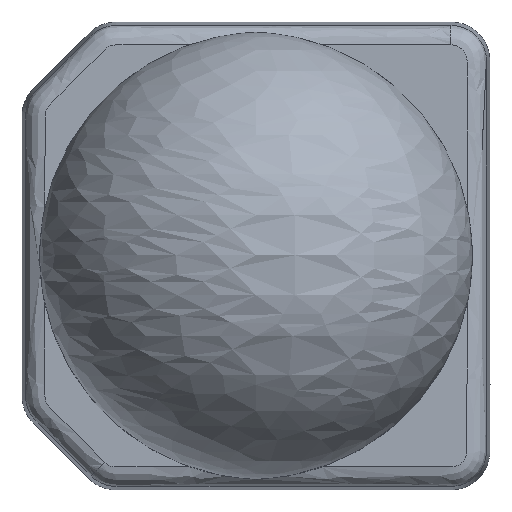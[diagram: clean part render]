
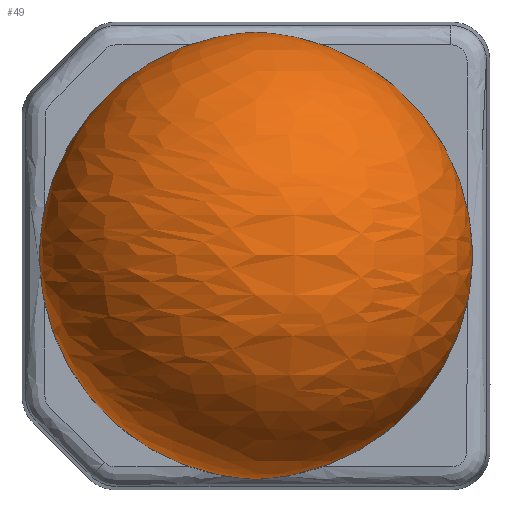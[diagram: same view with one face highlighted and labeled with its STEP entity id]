
A CAD part, top view. The second image highlights one B-rep face of the part: STEP entity #49.
In plain terms, the highlighted free-form (B-spline) face has degree [2, 2] with [5, 5] control points.
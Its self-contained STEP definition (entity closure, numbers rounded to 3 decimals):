
#49=ADVANCED_FACE('',(#86),#518,.T.);
#86=FACE_OUTER_BOUND('',#123,.T.);
#123=EDGE_LOOP('',(#244,#245));
#244=ORIENTED_EDGE('',*,*,#347,.F.);
#245=ORIENTED_EDGE('',*,*,#346,.F.);
#346=EDGE_CURVE('',#492,#493,#369,.T.);
#347=EDGE_CURVE('',#493,#492,#370,.T.);
#369=TRIMMED_CURVE($,#378,(#1464),(#1465),.T.,.CARTESIAN.);
#370=TRIMMED_CURVE($,#379,(#1467),(#1468),.T.,.CARTESIAN.);
#378=CIRCLE('',#587,5.727);
#379=CIRCLE('',#588,5.727);
#492=VERTEX_POINT('',#1149);
#493=VERTEX_POINT('',#1150);
#518=(
BOUNDED_SURFACE()
B_SPLINE_SURFACE(2,2,((#943,#944,#945,#946,#947),(#948,#949,#950,#951,#952),
(#953,#954,#955,#956,#957),(#958,#959,#960,#961,#962),(#963,#964,#965,#966,
#967)),.UNSPECIFIED.,.F.,.F.,.F.)
B_SPLINE_SURFACE_WITH_KNOTS((3,2,3),(3,2,3),(0.,8.817,17.634),
(0.,8.715,17.431),.UNSPECIFIED.)
GEOMETRIC_REPRESENTATION_ITEM()
RATIONAL_B_SPLINE_SURFACE(((1.,0.707,1.,0.707,1.),
(0.718,0.508,0.718,0.508,
0.718),(1.,0.707,1.,0.707,1.),(0.718,
0.508,0.718,0.508,0.718),
(1.,0.707,1.,0.707,1.)))
REPRESENTATION_ITEM('')
SURFACE()
);
#587=AXIS2_PLACEMENT_3D($,#1463,#624,#625);
#588=AXIS2_PLACEMENT_3D($,#1466,#626,#627);
#624=DIRECTION('',(0.,0.,-1.));
#625=DIRECTION('',(-0.031,-1.,0.));
#626=DIRECTION('',(0.,0.,-1.));
#627=DIRECTION('',(0.031,1.,0.));
#943=CARTESIAN_POINT('',(0.,-5.724,6.552));
#944=CARTESIAN_POINT('',(0.,-5.724,6.552));
#945=CARTESIAN_POINT('',(0.,-5.724,6.552));
#946=CARTESIAN_POINT('',(0.,-5.724,6.552));
#947=CARTESIAN_POINT('',(0.,-5.724,6.552));
#948=CARTESIAN_POINT('',(5.548,-5.551,6.552));
#949=CARTESIAN_POINT('',(5.548,-5.551,12.1));
#950=CARTESIAN_POINT('',(0.,-5.551,12.1));
#951=CARTESIAN_POINT('',(-5.548,-5.551,12.1));
#952=CARTESIAN_POINT('',(-5.548,-5.551,6.552));
#953=CARTESIAN_POINT('',(5.548,0.,6.552));
#954=CARTESIAN_POINT('',(5.548,0.,12.1));
#955=CARTESIAN_POINT('',(0.,0.,12.1));
#956=CARTESIAN_POINT('',(-5.548,0.,12.1));
#957=CARTESIAN_POINT('',(-5.548,0.,6.552));
#958=CARTESIAN_POINT('',(5.548,5.551,6.552));
#959=CARTESIAN_POINT('',(5.548,5.551,12.1));
#960=CARTESIAN_POINT('',(0.,5.551,12.1));
#961=CARTESIAN_POINT('',(-5.548,5.551,12.1));
#962=CARTESIAN_POINT('',(-5.548,5.551,6.552));
#963=CARTESIAN_POINT('',(0.,5.724,6.552));
#964=CARTESIAN_POINT('',(0.,5.724,6.552));
#965=CARTESIAN_POINT('',(0.,5.724,6.552));
#966=CARTESIAN_POINT('',(0.,5.724,6.552));
#967=CARTESIAN_POINT('',(0.,5.724,6.552));
#1149=CARTESIAN_POINT('',(0.,-5.724,6.552));
#1150=CARTESIAN_POINT('',(0.,5.724,6.552));
#1463=CARTESIAN_POINT('',(0.179,0.,6.552));
#1464=CARTESIAN_POINT('',(0.,-5.724,6.552));
#1465=CARTESIAN_POINT('',(0.,5.724,6.552));
#1466=CARTESIAN_POINT('',(-0.179,0.,6.552));
#1467=CARTESIAN_POINT('',(0.,5.724,6.552));
#1468=CARTESIAN_POINT('',(0.,-5.724,6.552));
